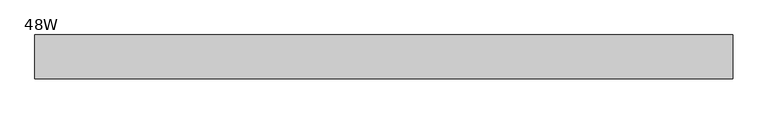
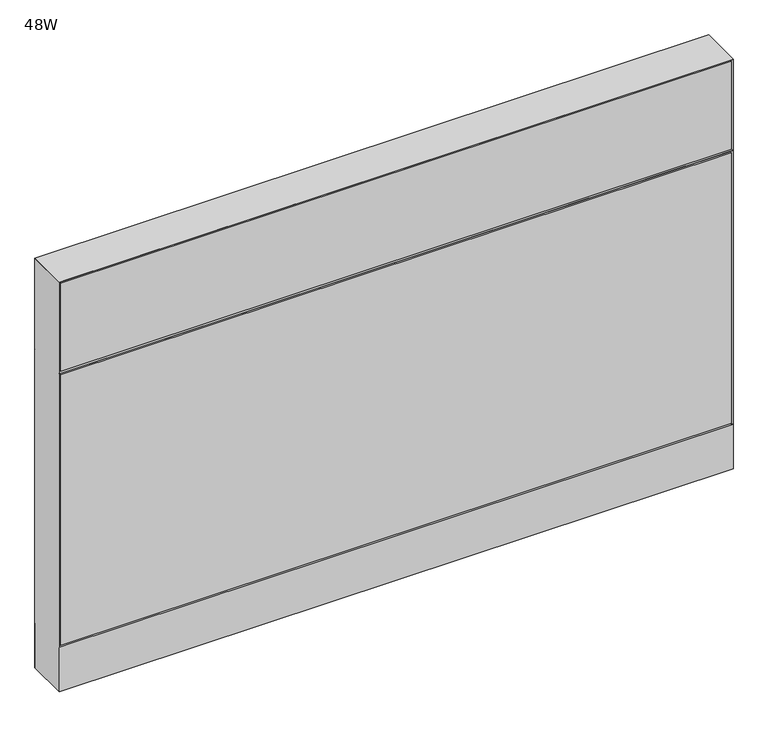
"""IFC4 building model written with IfcOpenShell, lengths in millimetres: furniture geometry, Steelcase - Montage - Frame - 31H - Enhanced Standard - Base Cavity : 48W."""

from ifc_helpers import new_model, si_unit, point, frame, frame_2d, origin, origin_with_axes, place, context, project, spatial, polyline, circle_curve, trimmed, segment, composite_curve, outline, extrude, faceted_brep, source, transform, mapped, element, save


def furniture_48w_8803d16e(model_context):
    return source(origin(), model_context, "Body", "SolidModel", [
        faceted_brep([(-5.7e-06, 38.1026268, 612.7750028), (6.3499913, 31.7526299, 619.1249997), (1212.8500048, 31.7526299, 619.1249997), (1219.2, 38.1026251, 612.7750045), (1212.8500048, 31.7526299, 606.4250003), (6.3499913, 31.7526299, 606.4250003)], [[[0, 1, 2, 3]], [[3, 4, 5, 0]], [[1, 5, 4, 2]], [[0, 5, 1]], [[2, 4, 3]]]),
        extrude(outline(polyline([(3.175, 31.7500194), (3.175, 38.1000194), (1216.025, 38.1000194), (1216.025, 31.7500194), (3.175, 31.7500194)])), frame((0.0, 0.0, 92.075), z_axis=(0.0, 0.0, 1.0), x_axis=(1.0, 0.0, 0.0)), (0.0, 0.0, 1.0), 517.525),
        extrude(outline(polyline([(3.175, 31.7500194), (3.175, 38.1000194), (1216.025, 38.1000194), (1216.025, 31.7500194), (3.175, 31.7500194)])), frame((0.0, 0.0, 615.95), z_axis=(0.0, 0.0, 1.0), x_axis=(1.0, 0.0, 0.0)), (0.0, 0.0, 1.0), 168.275),
        faceted_brep([(0.0, -38.1026297, 612.775), (1219.2, -38.1026297, 612.775), (1212.8500048, -31.7526299, 619.1249997), (6.3499913, -31.7526299, 619.1249997), (6.3499913, -31.7526299, 606.4250003), (1212.8500048, -31.7526299, 606.4250003)], [[[0, 1, 2, 3]], [[1, 0, 4, 5]], [[3, 2, 5, 4]], [[0, 3, 4]], [[2, 1, 5]]]),
        extrude(outline(polyline([(3.175, -31.7500194), (1216.025, -31.7500194), (1216.025, -38.1000194), (3.175, -38.1000194), (3.175, -31.7500194)])), frame((0.0, 0.0, 92.075), z_axis=(0.0, 0.0, 1.0), x_axis=(1.0, 0.0, 0.0)), (0.0, 0.0, 1.0), 517.525),
        extrude(outline(polyline([(3.175, -31.7500194), (1216.025, -31.7500194), (1216.025, -38.1000194), (3.175, -38.1000194), (3.175, -31.7500194)])), frame((0.0, 0.0, 615.95), z_axis=(0.0, 0.0, 1.0), x_axis=(1.0, 0.0, 0.0)), (0.0, 0.0, 1.0), 168.275),
        extrude(outline(polyline([(6.350003, -31.7499985), (1212.849997, -31.7499985), (1219.2, -38.1000015), (0.0, -38.1000015), (6.350003, -31.7499985)])), frame((0.0, 0.0, 4.064), z_axis=(0.0, 0.0, 1.0), x_axis=(1.0, 0.0, 0.0)), (0.0, 0.0, 1.0), 84.835997),
        extrude(outline(polyline([(6.3500002, 31.7500017), (0.0, 38.1000015), (1219.2, 38.1000015), (1212.8500002, 31.7500017), (6.3500002, 31.7500017)])), frame((0.0, 0.0, 4.064), z_axis=(0.0, 0.0, 1.0), x_axis=(1.0, 0.0, 0.0)), (0.0, 0.0, 1.0), 84.835997),
        faceted_brep([(1219.2, -38.1000015, 787.4), (0.0, -38.1000015, 787.4), (6.3500484, -31.749953, 781.0499516), (1212.8499516, -31.749953, 781.0499516), (6.3500484, 31.749953, 781.0499516), (1212.8499516, 31.749953, 781.0499516), (0.0, 38.1000015, 787.4), (1219.2, 38.1000015, 787.4)], [[[0, 1, 2, 3]], [[3, 2, 4, 5]], [[6, 7, 5, 4]], [[1, 0, 7, 6]], [[2, 1, 6, 4]], [[0, 3, 5, 7]]]),
        extrude(outline(composite_curve([segment(trimmed(circle_curve(frame_2d((44.45, 0.0)), 15.24), [point((29.21, 0.0))], [point((59.69, 0.0))], False, "CARTESIAN"), True, "CONTINUOUS"), segment(trimmed(circle_curve(frame_2d((44.45, 0.0)), 15.24), [point((59.69, 0.0))], [point((29.21, 0.0))], False, "CARTESIAN"), True, "CONTINUOUS")], self_intersect=False)), origin_with_axes(), (0.0, 0.0, 1.0), 4.064),
        extrude(outline(composite_curve([segment(trimmed(circle_curve(frame_2d((1174.75, 0.0)), 15.24), [point((1159.51, 0.0))], [point((1189.99, 0.0))], False, "CARTESIAN"), True, "CONTINUOUS"), segment(trimmed(circle_curve(frame_2d((1174.75, 0.0)), 15.24), [point((1189.99, 0.0))], [point((1159.51, 0.0))], False, "CARTESIAN"), True, "CONTINUOUS")], self_intersect=False)), origin_with_axes(), (0.0, 0.0, 1.0), 4.064),
        faceted_brep([(1219.2, -38.1000106, 4.064), (1219.2, 38.1000015, 4.064), (1219.2, 38.1000015, 787.4), (1219.2, -38.1000106, 787.3999637), (0.0, 38.1000015, 4.064), (0.0, -38.1000015, 4.064), (0.0, -38.1000015, 787.4), (0.0, 38.1000015, 787.4), (1212.8499879, 31.7500017, 606.425), (6.35, 31.7500017, 606.425), (6.3499998, 31.7500017, 619.125), (1212.8499879, 31.7500017, 619.125), (6.35, -31.7499985, 619.125), (1212.8499879, -31.7499985, 619.125), (6.350003, -31.7499985, 606.425), (1212.8499879, -31.7499985, 606.425), (6.35, 31.7500015, 4.064), (6.35, -31.7500015, 4.064), (1212.8499879, 31.7499894, 4.064), (1212.8499879, -31.7499985, 4.064), (6.35, 31.7500015, 781.05), (6.35, -31.7500015, 781.05), (1212.8499879, -31.7499985, 781.0499516), (1212.8499879, 31.7499898, 781.0499516)], [[[0, 1, 2, 3]], [[4, 5, 6, 7]], [[8, 9, 10, 11]], [[11, 10, 12, 13]], [[13, 12, 14, 15]], [[9, 8, 15, 14]], [[16, 17, 5, 4]], [[18, 1, 0, 19]], [[16, 4, 7, 20, 10, 9]], [[5, 17, 14, 12, 21, 6]], [[12, 10, 20, 21]], [[17, 16, 9, 14]], [[11, 13, 22, 23]], [[18, 19, 15, 8]], [[19, 0, 3, 22, 13, 15]], [[1, 18, 8, 11, 23, 2]], [[7, 6, 21, 20]], [[3, 2, 23, 22]]]),
    ])


if __name__ == "__main__":
    model = new_model("IFC4")
    model_context = context("Model", 3, world=origin())
    ifc_project = project(units=[si_unit("LENGTHUNIT", "METRE", prefix="MILLI")], contexts=[model_context])
    site = spatial("IfcSite", under=ifc_project)
    building = spatial("IfcBuilding", under=site)
    placement = place(None, origin())
    furniture_48w_shape = furniture_48w_8803d16e(model_context)
    element("IfcFurniture", 1, ObjectType="Steelcase - Montage - Frame - 31H - Enhanced Standard - Base Cavity : 48W", at=placement, inside=building, context=model_context, shape_type="MappedRepresentation", body=[
        mapped(furniture_48w_shape, transform((0.0, 0.0, 0.0), x_axis=(1.0, 0.0, 0.0), y_axis=(0.0, 1.0, 0.0), z_axis=(0.0, 0.0, 1.0))),
    ])
    save(model, "model.ifc")
